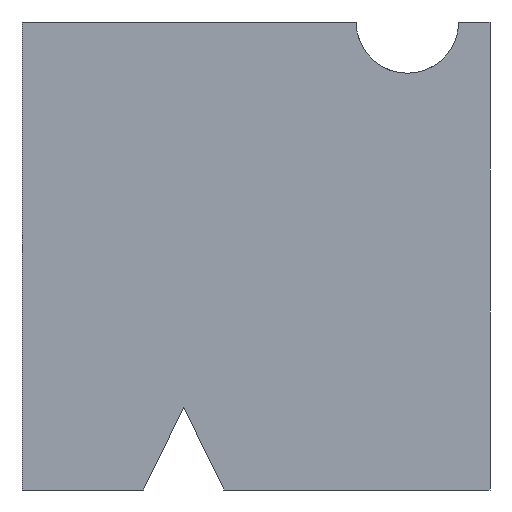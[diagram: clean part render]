
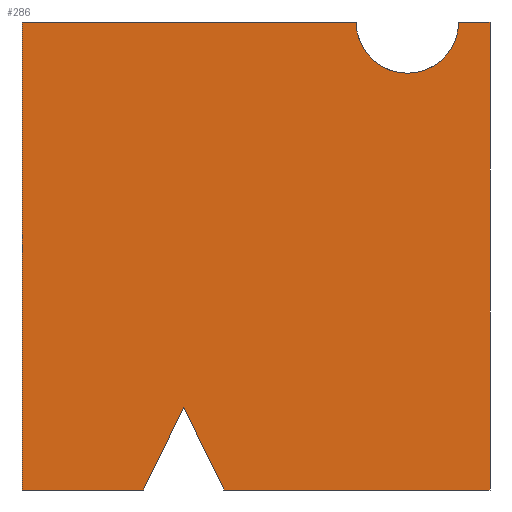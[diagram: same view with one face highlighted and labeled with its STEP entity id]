
A CAD part, left-side view. The second image highlights one B-rep face of the part: STEP entity #286.
In plain terms, the highlighted planar face has unit normal (-1, 0, 0).
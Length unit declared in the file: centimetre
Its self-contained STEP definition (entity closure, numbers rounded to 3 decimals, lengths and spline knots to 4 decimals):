
#3 = DIRECTION ( 'NONE',  ( 0., -1., 0. ) ) ;
#8 = ORIENTED_EDGE ( 'NONE', *, *, #631, .F. ) ;
#10 = CARTESIAN_POINT ( 'NONE',  ( 0., 1000., 1000. ) ) ;
#11 = EDGE_LOOP ( 'NONE', ( #407, #392, #8, #409, #414, #118, #645, #234, #505 ) ) ;
#12 = CARTESIAN_POINT ( 'NONE',  ( 0., 1000., 1000. ) ) ;
#18 = VECTOR ( 'NONE', #223, 100. ) ;
#37 = VECTOR ( 'NONE', #269, 100. ) ;
#45 = DIRECTION ( 'NONE',  ( 0., 0., -1. ) ) ;
#47 = VERTEX_POINT ( 'NONE', #208 ) ;
#51 = LINE ( 'NONE', #304, #735 ) ;
#53 = CARTESIAN_POINT ( 'NONE',  ( 0., 1000., 0. ) ) ;
#73 = CARTESIAN_POINT ( 'NONE',  ( 0., 0., 1000. ) ) ;
#83 = AXIS2_PLACEMENT_3D ( 'NONE', #12, #183, #373 ) ;
#100 = LINE ( 'NONE', #277, #700 ) ;
#106 = VERTEX_POINT ( 'NONE', #706 ) ;
#117 = VERTEX_POINT ( 'NONE', #584 ) ;
#118 = ORIENTED_EDGE ( 'NONE', *, *, #636, .T. ) ;
#121 = VECTOR ( 'NONE', #289, 100. ) ;
#151 = VECTOR ( 'NONE', #246, 100. ) ;
#159 = EDGE_CURVE ( 'NONE', #117, #47, #259, .T. ) ;
#169 = DIRECTION ( 'NONE',  ( 0., -0.441, 0.898 ) ) ;
#173 = PLANE ( 'NONE',  #83 ) ;
#180 = CARTESIAN_POINT ( 'NONE',  ( 0., 0., 1000. ) ) ;
#183 = DIRECTION ( 'NONE',  ( 1., 0., 0. ) ) ;
#208 = CARTESIAN_POINT ( 'NONE',  ( 0., 740.4183, 0. ) ) ;
#223 = DIRECTION ( 'NONE',  ( 0., -1., 0. ) ) ;
#234 = ORIENTED_EDGE ( 'NONE', *, *, #704, .T. ) ;
#238 = VERTEX_POINT ( 'NONE', #698 ) ;
#243 = AXIS2_PLACEMENT_3D ( 'NONE', #596, #322, #326 ) ;
#246 = DIRECTION ( 'NONE',  ( 0., -1., 0. ) ) ;
#259 = LINE ( 'NONE', #316, #298 ) ;
#269 = DIRECTION ( 'NONE',  ( 0., -0.441, -0.898 ) ) ;
#277 = CARTESIAN_POINT ( 'NONE',  ( 0., 1000., 1000. ) ) ;
#285 = EDGE_CURVE ( 'NONE', #106, #351, #515, .T. ) ;
#286 = ADVANCED_FACE ( 'NONE', ( #688 ), #173, .F. ) ;
#289 = DIRECTION ( 'NONE',  ( 0., 0., -1. ) ) ;
#298 = VECTOR ( 'NONE', #527, 100. ) ;
#304 = CARTESIAN_POINT ( 'NONE',  ( 0., 654.3999, 175.2923 ) ) ;
#316 = CARTESIAN_POINT ( 'NONE',  ( 0., 1000., 0. ) ) ;
#322 = DIRECTION ( 'NONE',  ( -1., 0., 0. ) ) ;
#326 = DIRECTION ( 'NONE',  ( 0., 0., 1. ) ) ;
#327 = CARTESIAN_POINT ( 'NONE',  ( 0., 1000., 1000. ) ) ;
#351 = VERTEX_POINT ( 'NONE', #180 ) ;
#369 = VECTOR ( 'NONE', #45, 100. ) ;
#373 = DIRECTION ( 'NONE',  ( 0., 0., -1. ) ) ;
#392 = ORIENTED_EDGE ( 'NONE', *, *, #524, .F. ) ;
#407 = ORIENTED_EDGE ( 'NONE', *, *, #285, .F. ) ;
#409 = ORIENTED_EDGE ( 'NONE', *, *, #575, .T. ) ;
#414 = ORIENTED_EDGE ( 'NONE', *, *, #159, .T. ) ;
#415 = EDGE_CURVE ( 'NONE', #238, #459, #725, .T. ) ;
#443 = LINE ( 'NONE', #73, #121 ) ;
#456 = VERTEX_POINT ( 'NONE', #600 ) ;
#459 = VERTEX_POINT ( 'NONE', #743 ) ;
#505 = ORIENTED_EDGE ( 'NONE', *, *, #719, .F. ) ;
#515 = LINE ( 'NONE', #10, #151 ) ;
#524 = EDGE_CURVE ( 'NONE', #619, #106, #667, .T. ) ;
#527 = DIRECTION ( 'NONE',  ( 0., -1., 0. ) ) ;
#542 = LINE ( 'NONE', #327, #369 ) ;
#575 = EDGE_CURVE ( 'NONE', #622, #117, #542, .T. ) ;
#584 = CARTESIAN_POINT ( 'NONE',  ( 0., 1000., 0. ) ) ;
#596 = CARTESIAN_POINT ( 'NONE',  ( 0., 176.457, 1000. ) ) ;
#600 = CARTESIAN_POINT ( 'NONE',  ( 0., 0., 0. ) ) ;
#615 = CARTESIAN_POINT ( 'NONE',  ( 0., 1000., 1000. ) ) ;
#619 = VERTEX_POINT ( 'NONE', #724 ) ;
#622 = VERTEX_POINT ( 'NONE', #615 ) ;
#631 = EDGE_CURVE ( 'NONE', #622, #619, #100, .T. ) ;
#636 = EDGE_CURVE ( 'NONE', #47, #238, #51, .T. ) ;
#645 = ORIENTED_EDGE ( 'NONE', *, *, #415, .T. ) ;
#667 = CIRCLE ( 'NONE', #243, 109.5019 ) ;
#670 = LINE ( 'NONE', #53, #18 ) ;
#688 = FACE_OUTER_BOUND ( 'NONE', #11, .T. ) ;
#698 = CARTESIAN_POINT ( 'NONE',  ( 0., 654.3999, 175.2923 ) ) ;
#700 = VECTOR ( 'NONE', #3, 100. ) ;
#704 = EDGE_CURVE ( 'NONE', #459, #456, #670, .T. ) ;
#706 = CARTESIAN_POINT ( 'NONE',  ( 0., 66.955, 1000. ) ) ;
#719 = EDGE_CURVE ( 'NONE', #351, #456, #443, .T. ) ;
#724 = CARTESIAN_POINT ( 'NONE',  ( 0., 285.9589, 1000. ) ) ;
#725 = LINE ( 'NONE', #729, #37 ) ;
#729 = CARTESIAN_POINT ( 'NONE',  ( 0., 568.3816, 0. ) ) ;
#735 = VECTOR ( 'NONE', #169, 100. ) ;
#743 = CARTESIAN_POINT ( 'NONE',  ( 0., 568.3816, 0. ) ) ;
